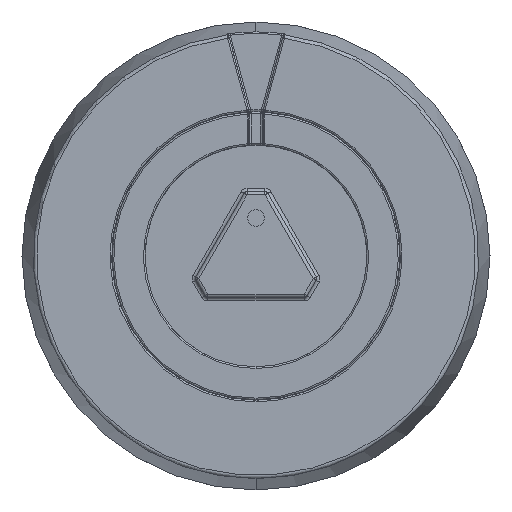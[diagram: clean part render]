
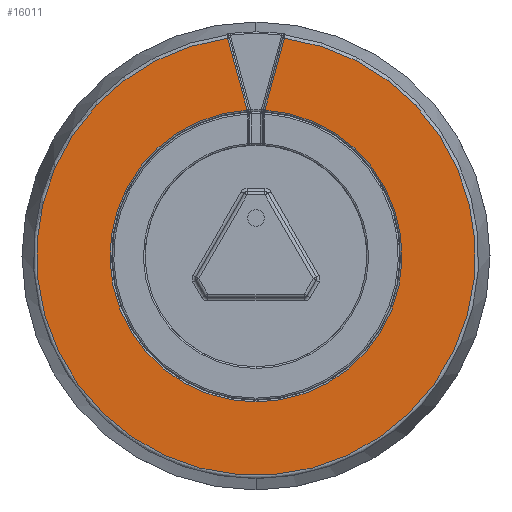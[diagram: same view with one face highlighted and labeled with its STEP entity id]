
A CAD part, top view. The second image highlights one B-rep face of the part: STEP entity #16011.
In plain terms, the highlighted planar face has unit normal (0, 0, 1) as drawn and (0, 1, 0) by its records, which use the part's own axes.
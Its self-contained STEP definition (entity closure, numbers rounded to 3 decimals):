
#710 = FACE_OUTER_BOUND ( 'NONE', #3249, .T. ) ;
#994 = VECTOR ( 'NONE', #21546, 1000. ) ;
#1513 = DIRECTION ( 'NONE',  ( 0., -1., 0. ) ) ;
#2537 = EDGE_CURVE ( 'NONE', #23275, #24162, #25670, .T. ) ;
#3249 = EDGE_LOOP ( 'NONE', ( #11595, #10987, #20482, #11576 ) ) ;
#4039 = CARTESIAN_POINT ( 'NONE',  ( -0.529, 36.95, 8.709 ) ) ;
#7084 = LINE ( 'NONE', #9985, #994 ) ;
#8429 = EDGE_CURVE ( 'NONE', #28328, #23275, #28809, .T. ) ;
#8572 = DIRECTION ( 'NONE',  ( 0., 1., 0. ) ) ;
#9985 = CARTESIAN_POINT ( 'NONE',  ( -0.524, 36.95, 8.688 ) ) ;
#10031 = CIRCLE ( 'NONE', #27899, 8.725 ) ;
#10481 = AXIS2_PLACEMENT_3D ( 'NONE', #11756, #27785, #14077 ) ;
#10987 = ORIENTED_EDGE ( 'NONE', *, *, #8429, .T. ) ;
#11251 = EDGE_CURVE ( 'NONE', #21915, #28328, #10031, .T. ) ;
#11576 = ORIENTED_EDGE ( 'NONE', *, *, #26293, .T. ) ;
#11595 = ORIENTED_EDGE ( 'NONE', *, *, #11251, .T. ) ;
#11756 = CARTESIAN_POINT ( 'NONE',  ( 0., 36.95, 0. ) ) ;
#13155 = CARTESIAN_POINT ( 'NONE',  ( 0.529, 36.95, 8.709 ) ) ;
#13761 = CARTESIAN_POINT ( 'NONE',  ( 1.69, 36.95, 12.986 ) ) ;
#14077 = DIRECTION ( 'NONE',  ( 0., 0., 1. ) ) ;
#14789 = CARTESIAN_POINT ( 'NONE',  ( -1.693, 36.95, 12.999 ) ) ;
#15164 = VECTOR ( 'NONE', #27459, 1000. ) ;
#15179 = CARTESIAN_POINT ( 'NONE',  ( 0., 36.95, 0. ) ) ;
#16011 = ADVANCED_FACE ( 'Boss-Extrude1', ( #710 ), #28067, .T. ) ;
#17514 = DIRECTION ( 'NONE',  ( 0., 0., 1. ) ) ;
#18980 = CARTESIAN_POINT ( 'NONE',  ( 0., 36.95, 0. ) ) ;
#20482 = ORIENTED_EDGE ( 'NONE', *, *, #2537, .T. ) ;
#21546 = DIRECTION ( 'NONE',  ( 0.262, 0., -0.965 ) ) ;
#21881 = AXIS2_PLACEMENT_3D ( 'NONE', #18980, #8572, #24596 ) ;
#21915 = VERTEX_POINT ( 'NONE', #4039 ) ;
#23275 = VERTEX_POINT ( 'NONE', #26463 ) ;
#24162 = VERTEX_POINT ( 'NONE', #14789 ) ;
#24596 = DIRECTION ( 'NONE',  ( 0., 0., 1. ) ) ;
#25670 = CIRCLE ( 'NONE', #10481, 13.109 ) ;
#26293 = EDGE_CURVE ( 'NONE', #24162, #21915, #7084, .T. ) ;
#26463 = CARTESIAN_POINT ( 'NONE',  ( 1.693, 36.95, 12.999 ) ) ;
#27459 = DIRECTION ( 'NONE',  ( 0.262, 0., 0.965 ) ) ;
#27785 = DIRECTION ( 'NONE',  ( 0., 1., 0. ) ) ;
#27899 = AXIS2_PLACEMENT_3D ( 'NONE', #15179, #1513, #17514 ) ;
#28067 = PLANE ( 'NONE',  #21881 ) ;
#28328 = VERTEX_POINT ( 'NONE', #13155 ) ;
#28809 = LINE ( 'NONE', #13761, #15164 ) ;
